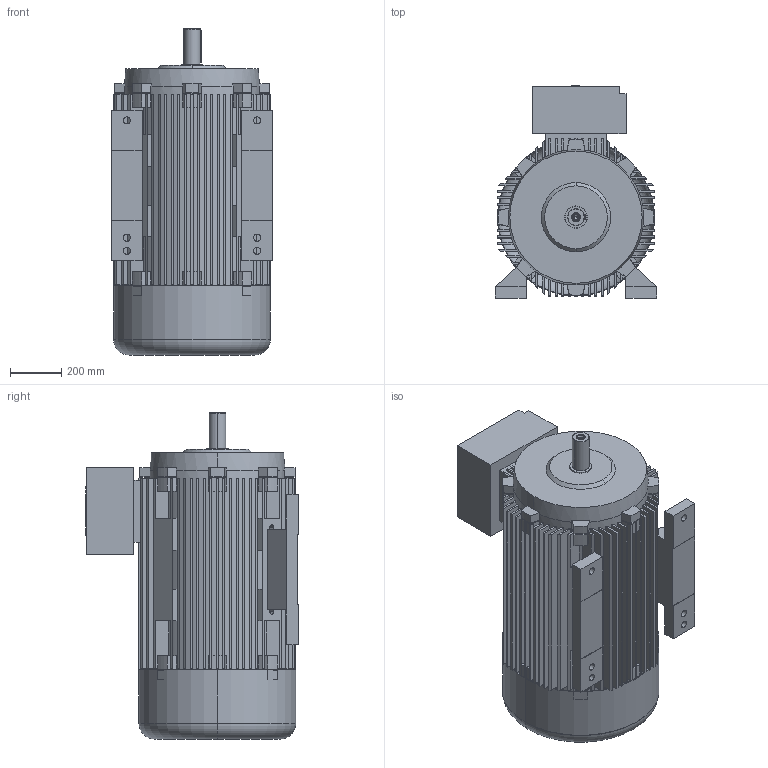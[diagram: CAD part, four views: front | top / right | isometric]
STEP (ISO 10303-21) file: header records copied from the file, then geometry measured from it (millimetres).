
FILE_DESCRIPTION (( 'STEP AP203' ), '1' );
FILE_NAME ('20.18433_A 7AT 315L -2 B3 STANDK.STEP', '2018-04-26T08:29:39', ( '' ), ( '' ), 'SwSTEP 2.0', 'SolidWorks 2017', '' );
FILE_SCHEMA (( 'CONFIG_CONTROL_DESIGN' ));
Length unit declared in the file: millimetre
Products named in the file (1): 20.18433_A 7AT 315L -2 B3 STANDK
Bounding box: 628 x 828 x 1270 mm (x, y, z)
Volume: 108577211.9 mm3; surface area: 11354395.2 mm2
Topology: 7 solids, 7 shells, 831 faces, 2254 edges, 1493 vertices
Faces by surface type: plane 677, cylinder 119, cone 22, bspline 9, torus 4
Entity records: 26312 total; most frequent: CARTESIAN_POINT 4934, ORIENTED_EDGE 4504, DIRECTION 4330, EDGE_CURVE 2252, LINE 1704, VECTOR 1704, VERTEX_POINT 1493, AXIS2_PLACEMENT_3D 1313
